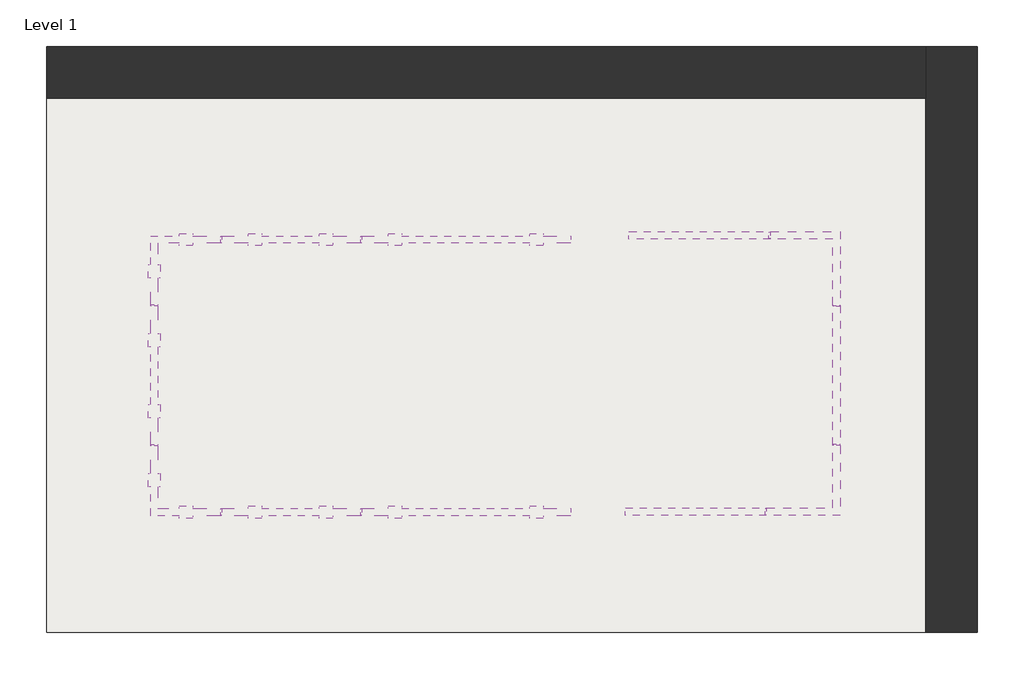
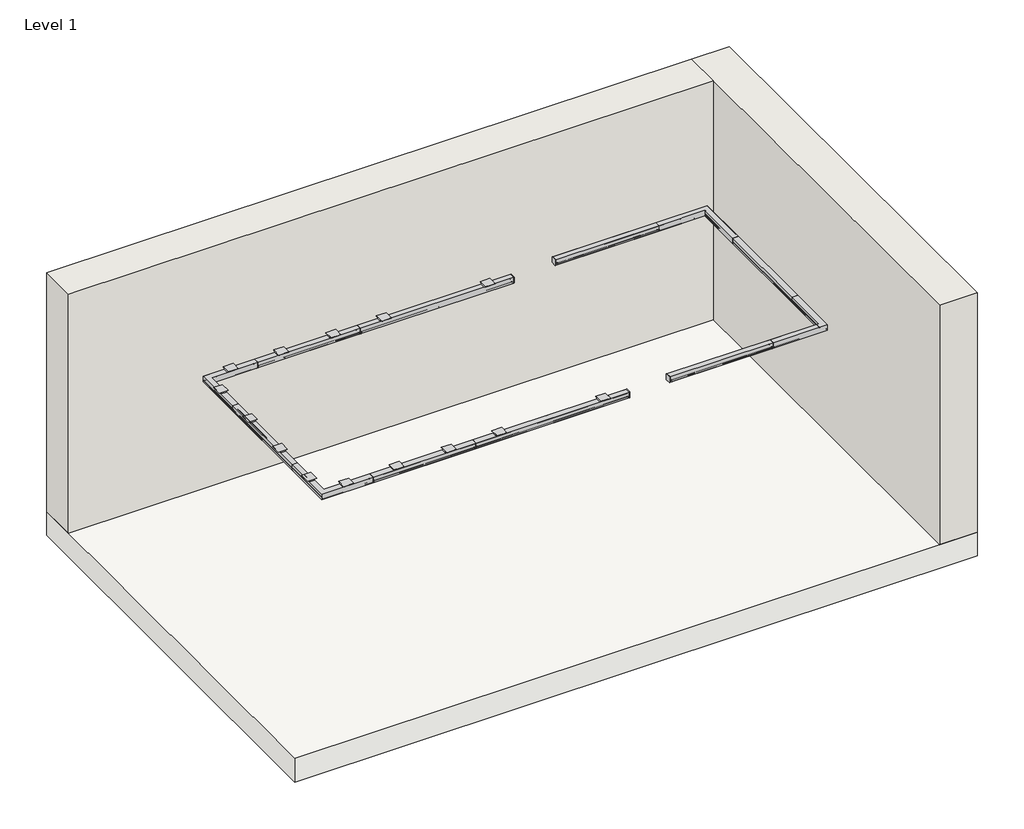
# One storey: 12 light fixtures, 2 walls, 1 slab.
"""IFC4 building model written with IfcOpenShell, lengths in millimetres."""

from ifc_helpers import new_model, si_unit, frame, origin, origin_with_axes, place, context, project, spatial, polyline, outline, extrude, faceted_brep, transform, mapped, element, save
from components import lighting_surface_bracket_axis_extend_2_b65ae41a, lighting_surface_bracket_axis_extend_2_561616e4, lighting_surface_bracket_axis_extend_2_corner_2x2_bc060365, lighting_surface_bracket_axis_extend_2_corner_2x2_9cdd9982, lighting_surface_axis_extend_2_856c419b, lighting_surface_axis_extend_2_cf736f56, lighting_surface_axis_extend_2_corner_2x2_7ba75d3a

model = new_model("IFC4")

# Units and contexts
model_context = context("Model", 3, world=origin())
ifc_project = project(units=[si_unit("LENGTHUNIT", "METRE", prefix="MILLI")], contexts=[model_context])

# Site, building, storey
site = spatial("IfcSite", under=ifc_project)
building = spatial("IfcBuilding", under=site)
storey = spatial("IfcBuildingStorey", under=building, Name="Level 1", Elevation=0.0)

# Light fixtures
placement = place(None, origin())
lighting_surface_bracket_axis_extend_2_shape = lighting_surface_bracket_axis_extend_2_b65ae41a(model_context)
element("IfcLightFixture", 1, ObjectType="Lighting-Surface Bracket-Axis-Extend 2 : EX2S-900-80-35-SO-4", at=placement, inside=storey, context=model_context, shape_type="MappedRepresentation", body=[
    mapped(lighting_surface_bracket_axis_extend_2_shape, transform((-1908.6605227, 2652.4897708, 2438.4), x_axis=(1.0, 0.0, 0.0), y_axis=(0.0, -1.0, 0.0), z_axis=(0.0, 0.0, -1.0))),
])
element("IfcLightFixture", 2, ObjectType="Lighting-Surface Bracket-Axis-Extend 2 : EX2S-900-80-35-SO-4", at=placement, inside=storey, context=model_context, shape_type="MappedRepresentation", body=[
    mapped(lighting_surface_bracket_axis_extend_2_shape, transform((-1908.6605227, 5063.5085708, 2438.4), x_axis=(1.0, 0.0, 0.0), y_axis=(0.0, -1.0, 0.0), z_axis=(0.0, 0.0, -1.0))),
])
element("IfcLightFixture", 3, ObjectType="Lighting-Surface Bracket-Axis-Extend 2 : EX2S-900-80-35-SO-4", at=placement, inside=storey, context=model_context, shape_type="MappedRepresentation", body=[
    mapped(lighting_surface_bracket_axis_extend_2_shape, transform((-3146.1739227, 3825.9951708, 2438.4), x_axis=(0.0, 1.0, 0.0), y_axis=(1.0, 0.0, 0.0), z_axis=(0.0, 0.0, -1.0))),
])
lighting_surface_bracket_axis_extend_2_2_shape = lighting_surface_bracket_axis_extend_2_561616e4(model_context)
element("IfcLightFixture", 4, ObjectType="Lighting-Surface Bracket-Axis-Extend 2 : EX2S-900-80-35-SO-4", at=placement, inside=storey, context=model_context, shape_type="MappedRepresentation", body=[
    mapped(lighting_surface_bracket_axis_extend_2_2_shape, transform((-366.3471227, 2652.4897708, 2438.4), x_axis=(1.0, 0.0, 0.0), y_axis=(0.0, -1.0, 0.0), z_axis=(0.0, 0.0, -1.0))),
])
element("IfcLightFixture", 5, ObjectType="Lighting-Surface Bracket-Axis-Extend 2 : EX2S-900-80-35-SO-4", at=placement, inside=storey, context=model_context, shape_type="MappedRepresentation", body=[
    mapped(lighting_surface_bracket_axis_extend_2_2_shape, transform((-366.3471227, 5063.5085708, 2438.4), x_axis=(1.0, 0.0, 0.0), y_axis=(0.0, -1.0, 0.0), z_axis=(0.0, 0.0, -1.0))),
])
lighting_surface_bracket_axis_extend_2_corner_2x2_shape = lighting_surface_bracket_axis_extend_2_corner_2x2_bc060365(model_context)
element("IfcLightFixture", 6, ObjectType="Lighting-Surface Bracket-Axis-Extend_2 _Corner : 2x2", at=placement, inside=storey, context=model_context, shape_type="MappedRepresentation", body=[
    mapped(lighting_surface_bracket_axis_extend_2_corner_2x2_shape, transform((-3114.1699227, 2893.2817708, 2438.4), x_axis=(0.0, -1.0, 0.0), y_axis=(-1.0, 0.0, 0.0), z_axis=(0.0, 0.0, -1.0))),
])
lighting_surface_bracket_axis_extend_2_corner_2x2_2_shape = lighting_surface_bracket_axis_extend_2_corner_2x2_9cdd9982(model_context)
element("IfcLightFixture", 7, ObjectType="Lighting-Surface Bracket-Axis-Extend_2 _Corner : 2x2", at=placement, inside=storey, context=model_context, shape_type="MappedRepresentation", body=[
    mapped(lighting_surface_bracket_axis_extend_2_corner_2x2_2_shape, transform((-2841.3739227, 5031.5045708, 2438.4), x_axis=(-1.0, 0.0, 0.0), y_axis=(0.0, 1.0, 0.0), z_axis=(0.0, 0.0, -1.0))),
])
lighting_surface_axis_extend_2_shape = lighting_surface_axis_extend_2_856c419b(model_context)
element("IfcLightFixture", 8, ObjectType="Lighting-Surface-Axis-Extend_2 : EX2S-900-80-35-SO-4", at=placement, inside=storey, context=model_context, shape_type="MappedRepresentation", body=[
    mapped(lighting_surface_axis_extend_2_shape, transform((1680.3791226, 2625.5270347, 2438.4), x_axis=(1.0, 0.0, 0.0), y_axis=(0.0, -1.0, 0.0), z_axis=(0.0, 0.0, -1.0))),
])
element("IfcLightFixture", 9, ObjectType="Lighting-Surface-Axis-Extend_2 : EX2S-900-80-35-SO-4", at=placement, inside=storey, context=model_context, shape_type="MappedRepresentation", body=[
    mapped(lighting_surface_axis_extend_2_shape, transform((1712.3831226, 5068.5498347, 2438.4), x_axis=(1.0, 0.0, 0.0), y_axis=(0.0, -1.0, 0.0), z_axis=(0.0, 0.0, -1.0))),
])
lighting_surface_axis_extend_2_2_shape = lighting_surface_axis_extend_2_cf736f56(model_context)
element("IfcLightFixture", 10, ObjectType="Lighting-Surface-Axis-Extend_2 : EX2S-900-80-35-SO-4", at=placement, inside=storey, context=model_context, shape_type="MappedRepresentation", body=[
    mapped(lighting_surface_axis_extend_2_2_shape, transform((2917.8925226, 3831.0364347, 2438.4), x_axis=(0.0, 1.0, 0.0), y_axis=(1.0, 0.0, 0.0), z_axis=(0.0, 0.0, -1.0))),
])
lighting_surface_axis_extend_2_corner_2x2_shape = lighting_surface_axis_extend_2_corner_2x2_7ba75d3a(model_context)
element("IfcLightFixture", 11, ObjectType="Lighting-Surface-Axis-Extend_2 - Corner : 2x2", at=placement, inside=storey, context=model_context, shape_type="MappedRepresentation", body=[
    mapped(lighting_surface_axis_extend_2_corner_2x2_shape, transform((2613.0925226, 2625.5270347, 2438.4), x_axis=(1.0, 0.0, 0.0), y_axis=(0.0, -1.0, 0.0), z_axis=(0.0, 0.0, -1.0))),
])
element("IfcLightFixture", 12, ObjectType="Lighting-Surface-Axis-Extend_2 - Corner : 2x2", at=placement, inside=storey, context=model_context, shape_type="MappedRepresentation", body=[
    mapped(lighting_surface_axis_extend_2_corner_2x2_shape, transform((2917.8925226, 4763.7498347, 2438.4), x_axis=(0.0, 1.0, 0.0), y_axis=(1.0, 0.0, 0.0), z_axis=(0.0, 0.0, -1.0))),
])

# Slab
element("IfcSlab", 13, ObjectType="Generic - 12\"", at=placement, inside=storey, context=model_context, shape_type="SweptSolid", body=[
    extrude(outline(polyline([(4164.0800226, 6740.3270347), (4164.0800226, 1558.7270347), (-4065.5199774, 1558.7270347), (-4065.5199774, 6740.3270347), (4164.0800226, 6740.3270347)])), frame((0.0, 0.0, -304.8), z_axis=(0.0, 0.0, 1.0), x_axis=(1.0, 0.0, 0.0)), (0.0, 0.0, 1.0), 304.8),
])

# Walls
element("IfcWall", 14, ObjectType="Exterior - CMU on Mtl. Stud", at=placement, inside=storey, context=model_context, shape_type="Brep", body=[
    faceted_brep([(4160.9050226, 1558.7270347, 0.0), (4160.9050226, 6737.1520347, 0.0), (4160.9050226, 6737.1520347, 3048.0), (4160.9050226, 1558.7270347, 3048.0), (3706.8800226, 1558.7270347, 0.0), (3706.8800226, 1558.7270347, 3048.0), (3706.8800226, 6283.1270347, 3048.0), (3706.8800226, 6737.1520347, 3048.0), (3706.8800226, 6737.1520347, 0.0), (3706.8800226, 6283.1270347, 0.0)], [[[0, 1, 2, 3]], [[4, 5, 6, 7, 8, 9]], [[1, 0, 4, 9, 8]], [[3, 2, 7, 6, 5]], [[0, 3, 5, 4]], [[2, 1, 8, 7]]]),
])
element("IfcWall", 15, ObjectType="Exterior - CMU on Mtl. Stud", at=placement, inside=storey, context=model_context, shape_type="SweptSolid", body=[
    extrude(outline(polyline([(-4065.5199774, 6737.1520347), (3706.8800226, 6737.1520347), (3706.8800226, 6283.1270347), (-4065.5199774, 6283.1270347), (-4065.5199774, 6737.1520347)])), origin_with_axes(), (0.0, 0.0, 1.0), 3048.0),
])

save(model, "model.ifc")
